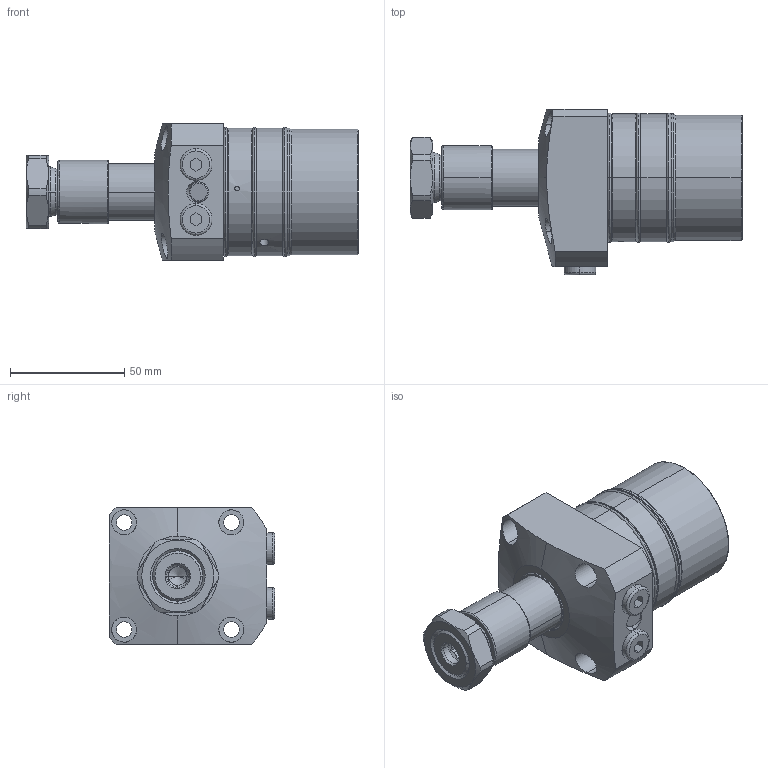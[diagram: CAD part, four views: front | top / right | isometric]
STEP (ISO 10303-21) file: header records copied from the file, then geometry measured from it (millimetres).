
FILE_DESCRIPTION(/* description */ (''),/* implementation_level */ '2;1');
FILE_NAME(/* name */ 'KTRW55-RE.stp',/* time_stamp */ '2022-11-18T11:21:44+08:00',/* author */ (''),/* organization */ (''),/* preprocessor_version */ 'ST-DEVELOPER v16.7',/* originating_system */ 'SIEMENS PLM Software NX 12.0',/* authorisation */ '');
FILE_SCHEMA (('AP203_CONFIGURATION_CONTROLLED_3D_DESIGN_OF_MECHANICAL_PARTS_AND_ASSEMBLIES_MIM_LF { 1 0 10303 403 2 1 2}'));
Length unit declared in the file: millimetre
Products named in the file (7): KTRW55-RE-04; KTRW55-RE-06; KTRW55-RE-01; KTRW55-RE-05; KTRW55-RE-02; KTRW55-RE-03; LHW0551-CLE_step
Assembly tree (9 placements, depth 2):
  LHW0551-CLE_step
    KTRW55-RE-03
    KTRW55-RE-02
    KTRW55-RE-05  x3
    KTRW55-RE-01
    KTRW55-RE-06  x2
    KTRW55-RE-04
Bounding box: 145.5 x 72.5 x 60 mm (x, y, z)
Volume: 272580.8 mm3; surface area: 47880.5 mm2
Topology: 12 solids, 12 shells, 375 faces, 832 edges, 507 vertices
Faces by surface type: cylinder 116, plane 102, torus 84, cone 71, sphere 2
Entity records: 9986 total; most frequent: CARTESIAN_POINT 2057, DIRECTION 1607, ORIENTED_EDGE 1376, EDGE_CURVE 688, AXIS2_PLACEMENT_3D 684, VERTEX_POINT 423, CIRCLE 367, EDGE_LOOP 349
